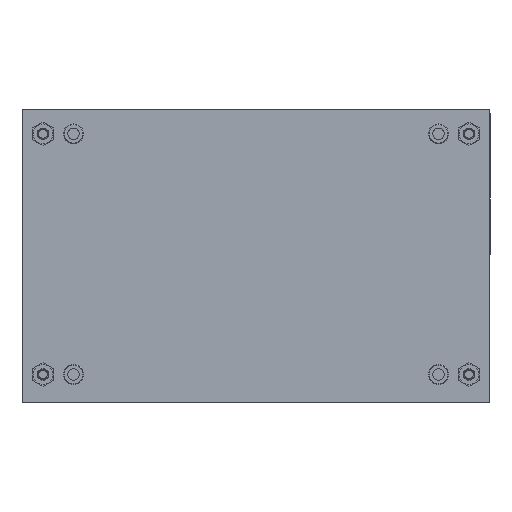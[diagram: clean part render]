
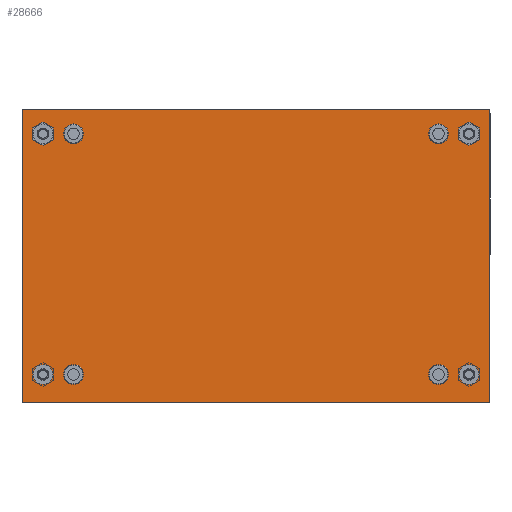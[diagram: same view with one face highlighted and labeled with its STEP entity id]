
A CAD part, front view. The second image highlights one B-rep face of the part: STEP entity #28666.
In plain terms, the highlighted planar face has unit normal (0, -1, 0).
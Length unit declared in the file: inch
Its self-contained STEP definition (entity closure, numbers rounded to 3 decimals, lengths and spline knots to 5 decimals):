
#297 = DIRECTION ( 'NONE',  ( 0., 0., -1. ) ) ;
#357 = VERTEX_POINT ( 'NONE', #14573 ) ;
#504 = AXIS2_PLACEMENT_3D ( 'NONE', #7537, #7394, #5860 ) ;
#658 = AXIS2_PLACEMENT_3D ( 'NONE', #28270, #28219, #28171 ) ;
#1000 = VECTOR ( 'NONE', #1560, 39.37008 ) ;
#1560 = DIRECTION ( 'NONE',  ( 0., 0., 1. ) ) ;
#1618 = CARTESIAN_POINT ( 'NONE',  ( -2.5, 0., -1.56693 ) ) ;
#1638 = CARTESIAN_POINT ( 'NONE',  ( 2.5, 0., -1.56693 ) ) ;
#1670 = EDGE_LOOP ( 'NONE', ( #24552, #9560, #33343, #33210 ) ) ;
#2383 = CARTESIAN_POINT ( 'NONE',  ( -1.95, 0., -1.37205 ) ) ;
#2493 = EDGE_CURVE ( 'NONE', #19930, #19930, #3466, .T. ) ;
#3345 = CARTESIAN_POINT ( 'NONE',  ( 2.5, 0., -1.56693 ) ) ;
#3398 = DIRECTION ( 'NONE',  ( 0., 0., -1. ) ) ;
#3442 = DIRECTION ( 'NONE',  ( 0., -1., 0. ) ) ;
#3466 = CIRCLE ( 'NONE', #16698, 0.1063 ) ;
#3476 = CARTESIAN_POINT ( 'NONE',  ( 2.27559, 0., 1.30512 ) ) ;
#3967 = CARTESIAN_POINT ( 'NONE',  ( -2.5, 0., -1.56693 ) ) ;
#4178 = CIRCLE ( 'NONE', #11896, 0.1063 ) ;
#4726 = EDGE_CURVE ( 'NONE', #357, #357, #31531, .T. ) ;
#4763 = CARTESIAN_POINT ( 'NONE',  ( -2.5, 0., 1.56693 ) ) ;
#4793 = CARTESIAN_POINT ( 'NONE',  ( 2.5, 0., -1.56693 ) ) ;
#5542 = VECTOR ( 'NONE', #20735, 39.37008 ) ;
#5758 = FACE_BOUND ( 'NONE', #33386, .T. ) ;
#5860 = DIRECTION ( 'NONE',  ( 0., 0., -1. ) ) ;
#5927 = CARTESIAN_POINT ( 'NONE',  ( 2.27559, 0., 1.19882 ) ) ;
#6475 = PLANE ( 'NONE',  #18035 ) ;
#6709 = LINE ( 'NONE', #21299, #22310 ) ;
#6747 = FACE_BOUND ( 'NONE', #7482, .T. ) ;
#6927 = ORIENTED_EDGE ( 'NONE', *, *, #12350, .F. ) ;
#7394 = DIRECTION ( 'NONE',  ( 0., -1., 0. ) ) ;
#7482 = EDGE_LOOP ( 'NONE', ( #6927 ) ) ;
#7537 = CARTESIAN_POINT ( 'NONE',  ( -2.27559, 0., 1.30512 ) ) ;
#7922 = VERTEX_POINT ( 'NONE', #4793 ) ;
#8141 = CARTESIAN_POINT ( 'NONE',  ( -1.95, 0., 1.19882 ) ) ;
#8953 = CARTESIAN_POINT ( 'NONE',  ( 1.95, 0., 1.19882 ) ) ;
#9543 = DIRECTION ( 'NONE',  ( 0., 0., -1. ) ) ;
#9560 = ORIENTED_EDGE ( 'NONE', *, *, #13071, .F. ) ;
#9603 = DIRECTION ( 'NONE',  ( 0., -1., 0. ) ) ;
#9634 = CARTESIAN_POINT ( 'NONE',  ( 1.95, 0., 1.30512 ) ) ;
#9656 = DIRECTION ( 'NONE',  ( 0., 1., 0. ) ) ;
#9865 = AXIS2_PLACEMENT_3D ( 'NONE', #32259, #32224, #32183 ) ;
#10238 = EDGE_CURVE ( 'NONE', #35952, #35952, #4178, .T. ) ;
#10303 = ORIENTED_EDGE ( 'NONE', *, *, #21947, .F. ) ;
#10348 = CIRCLE ( 'NONE', #658, 0.1063 ) ;
#10650 = VERTEX_POINT ( 'NONE', #5927 ) ;
#11896 = AXIS2_PLACEMENT_3D ( 'NONE', #14036, #14027, #13933 ) ;
#12350 = EDGE_CURVE ( 'NONE', #26735, #26735, #10348, .T. ) ;
#12396 = VERTEX_POINT ( 'NONE', #27001 ) ;
#12648 = ORIENTED_EDGE ( 'NONE', *, *, #29768, .F. ) ;
#12663 = CARTESIAN_POINT ( 'NONE',  ( 2.27559, 0., -1.37205 ) ) ;
#12719 = DIRECTION ( 'NONE',  ( 0., -1., 0. ) ) ;
#12891 = EDGE_LOOP ( 'NONE', ( #22728 ) ) ;
#13071 = EDGE_CURVE ( 'NONE', #12396, #7922, #34630, .T. ) ;
#13578 = AXIS2_PLACEMENT_3D ( 'NONE', #3476, #3442, #3398 ) ;
#13933 = DIRECTION ( 'NONE',  ( 0., 0., -1. ) ) ;
#14027 = DIRECTION ( 'NONE',  ( 0., -1., 0. ) ) ;
#14036 = CARTESIAN_POINT ( 'NONE',  ( 1.95, 0., -1.26575 ) ) ;
#14123 = FACE_BOUND ( 'NONE', #26553, .T. ) ;
#14573 = CARTESIAN_POINT ( 'NONE',  ( -2.27559, 0., 1.19882 ) ) ;
#15471 = EDGE_CURVE ( 'NONE', #31180, #21865, #25882, .T. ) ;
#16698 = AXIS2_PLACEMENT_3D ( 'NONE', #23136, #23090, #23042 ) ;
#17622 = CARTESIAN_POINT ( 'NONE',  ( 2.5, 0., -1.56693 ) ) ;
#17809 = EDGE_LOOP ( 'NONE', ( #39011 ) ) ;
#18035 = AXIS2_PLACEMENT_3D ( 'NONE', #3345, #9656, #31433 ) ;
#18195 = DIRECTION ( 'NONE',  ( 1., 0., 0. ) ) ;
#18218 = CIRCLE ( 'NONE', #9865, 0.1063 ) ;
#18407 = VERTEX_POINT ( 'NONE', #12663 ) ;
#19402 = EDGE_CURVE ( 'NONE', #20861, #20861, #28551, .T. ) ;
#19930 = VERTEX_POINT ( 'NONE', #8141 ) ;
#20361 = EDGE_CURVE ( 'NONE', #36419, #36419, #18218, .T. ) ;
#20683 = EDGE_LOOP ( 'NONE', ( #10303 ) ) ;
#20735 = DIRECTION ( 'NONE',  ( -1., 0., 0. ) ) ;
#20861 = VERTEX_POINT ( 'NONE', #8953 ) ;
#21299 = CARTESIAN_POINT ( 'NONE',  ( 2.5, 0., 1.56693 ) ) ;
#21865 = VERTEX_POINT ( 'NONE', #4763 ) ;
#21947 = EDGE_CURVE ( 'NONE', #10650, #10650, #36725, .T. ) ;
#22310 = VECTOR ( 'NONE', #18195, 39.37008 ) ;
#22354 = FACE_OUTER_BOUND ( 'NONE', #1670, .T. ) ;
#22728 = ORIENTED_EDGE ( 'NONE', *, *, #10238, .F. ) ;
#23042 = DIRECTION ( 'NONE',  ( 0., 0., -1. ) ) ;
#23090 = DIRECTION ( 'NONE',  ( 0., -1., 0. ) ) ;
#23136 = CARTESIAN_POINT ( 'NONE',  ( -1.95, 0., 1.30512 ) ) ;
#23362 = FACE_BOUND ( 'NONE', #12891, .T. ) ;
#24552 = ORIENTED_EDGE ( 'NONE', *, *, #34545, .F. ) ;
#25882 = LINE ( 'NONE', #1618, #1000 ) ;
#26553 = EDGE_LOOP ( 'NONE', ( #37033 ) ) ;
#26735 = VERTEX_POINT ( 'NONE', #2383 ) ;
#27001 = CARTESIAN_POINT ( 'NONE',  ( 2.5, 0., 1.56693 ) ) ;
#28171 = DIRECTION ( 'NONE',  ( 0., 0., -1. ) ) ;
#28219 = DIRECTION ( 'NONE',  ( 0., -1., 0. ) ) ;
#28270 = CARTESIAN_POINT ( 'NONE',  ( -1.95, 0., -1.26575 ) ) ;
#28551 = CIRCLE ( 'NONE', #29688, 0.1063 ) ;
#28666 = ADVANCED_FACE ( 'NONE', ( #6747, #23362, #31640, #30658, #22354, #38877, #14123, #5758, #37905 ), #6475, .F. ) ;
#29111 = EDGE_CURVE ( 'NONE', #21865, #12396, #6709, .T. ) ;
#29688 = AXIS2_PLACEMENT_3D ( 'NONE', #9634, #9603, #9543 ) ;
#29768 = EDGE_CURVE ( 'NONE', #18407, #18407, #40174, .T. ) ;
#30658 = FACE_BOUND ( 'NONE', #32884, .T. ) ;
#31180 = VERTEX_POINT ( 'NONE', #3967 ) ;
#31350 = CARTESIAN_POINT ( 'NONE',  ( 2.27559, 0., -1.26575 ) ) ;
#31433 = DIRECTION ( 'NONE',  ( 0., 0., 1. ) ) ;
#31531 = CIRCLE ( 'NONE', #504, 0.1063 ) ;
#31640 = FACE_BOUND ( 'NONE', #20683, .T. ) ;
#32183 = DIRECTION ( 'NONE',  ( 0., 0., -1. ) ) ;
#32224 = DIRECTION ( 'NONE',  ( 0., -1., 0. ) ) ;
#32259 = CARTESIAN_POINT ( 'NONE',  ( -2.27559, 0., -1.26575 ) ) ;
#32884 = EDGE_LOOP ( 'NONE', ( #12648 ) ) ;
#33210 = ORIENTED_EDGE ( 'NONE', *, *, #15471, .F. ) ;
#33343 = ORIENTED_EDGE ( 'NONE', *, *, #29111, .F. ) ;
#33386 = EDGE_LOOP ( 'NONE', ( #36225 ) ) ;
#33495 = CARTESIAN_POINT ( 'NONE',  ( 1.95, 0., -1.37205 ) ) ;
#33670 = VECTOR ( 'NONE', #297, 39.37008 ) ;
#33717 = AXIS2_PLACEMENT_3D ( 'NONE', #31350, #12719, #34477 ) ;
#33880 = CARTESIAN_POINT ( 'NONE',  ( -2.27559, 0., -1.37205 ) ) ;
#34477 = DIRECTION ( 'NONE',  ( 0., 0., -1. ) ) ;
#34545 = EDGE_CURVE ( 'NONE', #7922, #31180, #38664, .T. ) ;
#34630 = LINE ( 'NONE', #1638, #33670 ) ;
#35952 = VERTEX_POINT ( 'NONE', #33495 ) ;
#36225 = ORIENTED_EDGE ( 'NONE', *, *, #19402, .F. ) ;
#36419 = VERTEX_POINT ( 'NONE', #33880 ) ;
#36725 = CIRCLE ( 'NONE', #13578, 0.1063 ) ;
#37033 = ORIENTED_EDGE ( 'NONE', *, *, #4726, .F. ) ;
#37905 = FACE_BOUND ( 'NONE', #17809, .T. ) ;
#38664 = LINE ( 'NONE', #17622, #5542 ) ;
#38675 = EDGE_LOOP ( 'NONE', ( #40076 ) ) ;
#38877 = FACE_BOUND ( 'NONE', #38675, .T. ) ;
#39011 = ORIENTED_EDGE ( 'NONE', *, *, #2493, .F. ) ;
#40076 = ORIENTED_EDGE ( 'NONE', *, *, #20361, .F. ) ;
#40174 = CIRCLE ( 'NONE', #33717, 0.1063 ) ;
